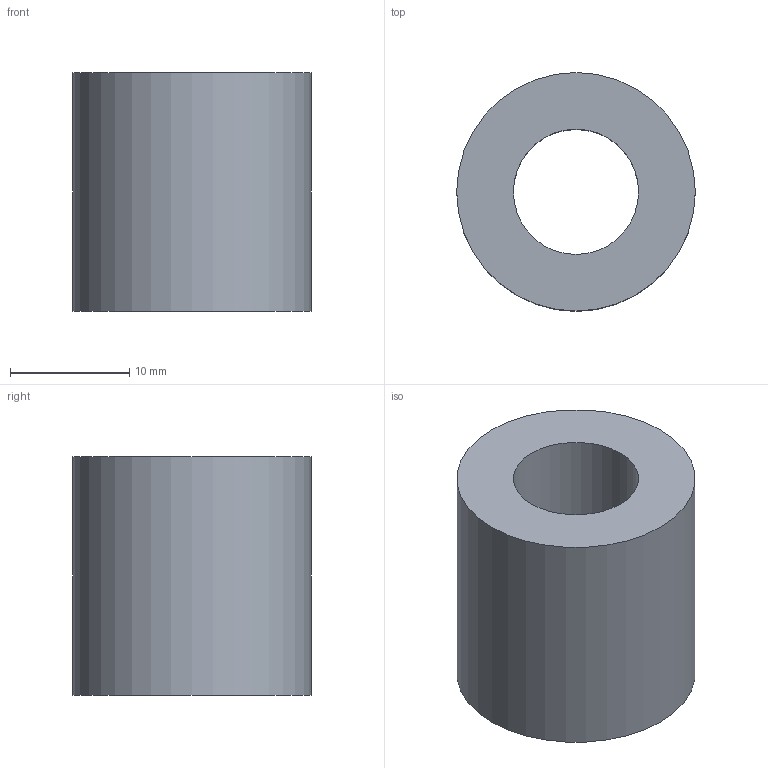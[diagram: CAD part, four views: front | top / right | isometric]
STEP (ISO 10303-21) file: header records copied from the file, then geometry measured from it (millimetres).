
FILE_DESCRIPTION( ( 'Unknown' ), '1' );
FILE_NAME( 'F:/navkite transat/construction/2016/3D ET ASSEMBLAGES/desal/DES 15.stp', 'Unknown', ( 'GMA' ), ( 'Unknown' ), 'XStep 1.0', 'Unknown', ' ' );
FILE_SCHEMA( ( 'automotive_design' ) );
Length unit declared in the file: millimetre
Products named in the file (1): 1
Bounding box: 20 x 20 x 20 mm (x, y, z)
Volume: 4551.4 mm3; surface area: 2371.5 mm2
Topology: 1 solids, 1 shells, 4 faces, 6 edges, 4 vertices
Faces by surface type: cylinder 2, plane 2
Full cylindrical faces by diameter (mm): 10.5 x1, 20 x1
Entity records: 136 total; most frequent: DIRECTION 18, CARTESIAN_POINT 13, AXIS2_PLACEMENT_3D 9, EDGE_LOOP 8, ORIENTED_EDGE 8, FACE_OUTER_BOUND 6, STYLED_ITEM 4, PRESENTATION_STYLE_ASSIGNMENT 4
